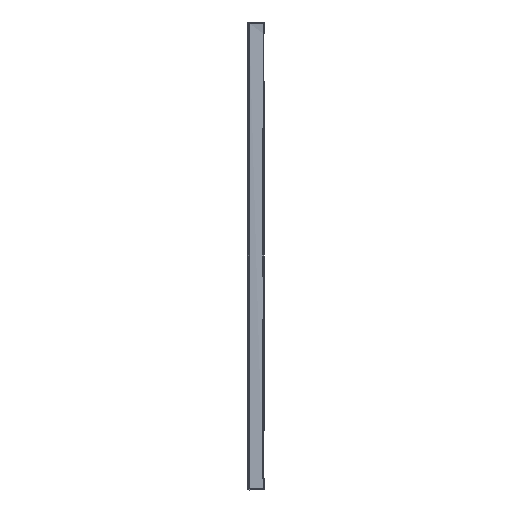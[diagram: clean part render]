
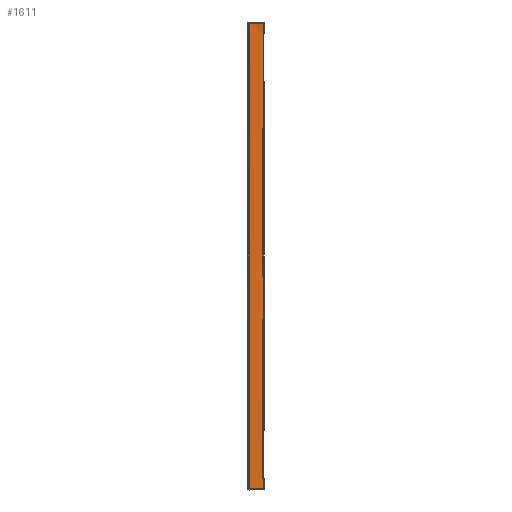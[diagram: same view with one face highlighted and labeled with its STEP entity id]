
A CAD part, left-side view. The second image highlights one B-rep face of the part: STEP entity #1611.
In plain terms, the highlighted planar face has unit normal (-1, 0, 0).
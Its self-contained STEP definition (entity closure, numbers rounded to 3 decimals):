
#299 = CARTESIAN_POINT ( 'NONE',  ( -399.5, -19.8, -288.867 ) ) ;
#389 = B_SPLINE_CURVE_WITH_KNOTS ( 'NONE', 3,
 ( #3256, #1489, #9709, #4852 ),
 .UNSPECIFIED., .F., .F.,
 ( 4, 4 ),
 ( 0., 1. ),
 .UNSPECIFIED. ) ;
#455 = ORIENTED_EDGE ( 'NONE', *, *, #4024, .T. ) ;
#754 = CARTESIAN_POINT ( 'NONE',  ( -399.5, -19.8, -297.8 ) ) ;
#947 = EDGE_CURVE ( 'NONE', #7885, #4846, #6087, .T. ) ;
#1029 = B_SPLINE_CURVE_WITH_KNOTS ( 'NONE', 3,
 ( #2221, #1649, #7524, #7483 ),
 .UNSPECIFIED., .F., .F.,
 ( 4, 4 ),
 ( 0., 1. ),
 .UNSPECIFIED. ) ;
#1489 = CARTESIAN_POINT ( 'NONE',  ( -399.5, -8., -297.8 ) ) ;
#1611 = ADVANCED_FACE ( 'NONE', ( #8850 ), #10352, .T. ) ;
#1649 = CARTESIAN_POINT ( 'NONE',  ( -399.5, -19.4, -94.8 ) ) ;
#1806 = ORIENTED_EDGE ( 'NONE', *, *, #9982, .T. ) ;
#1990 = ORIENTED_EDGE ( 'NONE', *, *, #8218, .T. ) ;
#1997 = CARTESIAN_POINT ( 'NONE',  ( -399.5, -19.8, -284.4 ) ) ;
#2091 = CARTESIAN_POINT ( 'NONE',  ( -399.5, -8., 297.8 ) ) ;
#2150 = CARTESIAN_POINT ( 'NONE',  ( -399.5, -19.8, 297.8 ) ) ;
#2221 = CARTESIAN_POINT ( 'NONE',  ( -399.5, -19.4, -284.4 ) ) ;
#2278 = CARTESIAN_POINT ( 'NONE',  ( -399.5, -2.1, 297.8 ) ) ;
#2679 = B_SPLINE_CURVE_WITH_KNOTS ( 'NONE', 3,
 ( #3444, #8221, #2091, #8358 ),
 .UNSPECIFIED., .F., .F.,
 ( 4, 4 ),
 ( 0., 1. ),
 .UNSPECIFIED. ) ;
#3256 = CARTESIAN_POINT ( 'NONE',  ( -399.5, -2.1, -297.8 ) ) ;
#3378 = CARTESIAN_POINT ( 'NONE',  ( -399.5, -19.8, 293.333 ) ) ;
#3444 = CARTESIAN_POINT ( 'NONE',  ( -399.5, -19.8, 297.8 ) ) ;
#3532 = CARTESIAN_POINT ( 'NONE',  ( -399.5, -2.1, 297.8 ) ) ;
#3990 = CARTESIAN_POINT ( 'NONE',  ( -399.5, -19.8, -293.333 ) ) ;
#4010 = CARTESIAN_POINT ( 'NONE',  ( -399.5, -19.667, -284.4 ) ) ;
#4024 = EDGE_CURVE ( 'NONE', #6034, #6726, #5207, .T. ) ;
#4025 = CARTESIAN_POINT ( 'NONE',  ( -399.5, -19.8, 288.867 ) ) ;
#4253 = CARTESIAN_POINT ( 'NONE',  ( -399.5, -19.533, -284.4 ) ) ;
#4306 = VERTEX_POINT ( 'NONE', #5542 ) ;
#4564 = ORIENTED_EDGE ( 'NONE', *, *, #9592, .T. ) ;
#4776 = CARTESIAN_POINT ( 'NONE',  ( -399.5, -2.1, 99.267 ) ) ;
#4814 = CARTESIAN_POINT ( 'NONE',  ( -399.5, -19.4, -284.4 ) ) ;
#4846 = VERTEX_POINT ( 'NONE', #3532 ) ;
#4852 = CARTESIAN_POINT ( 'NONE',  ( -399.5, -19.8, -297.8 ) ) ;
#5207 = B_SPLINE_CURVE_WITH_KNOTS ( 'NONE', 3,
 ( #9587, #4025, #3378, #9023 ),
 .UNSPECIFIED., .F., .F.,
 ( 4, 4 ),
 ( 0., 1. ),
 .UNSPECIFIED. ) ;
#5462 = DIRECTION ( 'NONE',  ( -1., 0., 0. ) ) ;
#5542 = CARTESIAN_POINT ( 'NONE',  ( -399.5, -19.8, -297.8 ) ) ;
#5895 = ORIENTED_EDGE ( 'NONE', *, *, #947, .F. ) ;
#6034 = VERTEX_POINT ( 'NONE', #7299 ) ;
#6073 = CARTESIAN_POINT ( 'NONE',  ( -399.5, -2.1, -297.8 ) ) ;
#6087 = B_SPLINE_CURVE_WITH_KNOTS ( 'NONE', 3,
 ( #7959, #10422, #4776, #2278 ),
 .UNSPECIFIED., .F., .F.,
 ( 4, 4 ),
 ( 0., 1. ),
 .UNSPECIFIED. ) ;
#6214 = ORIENTED_EDGE ( 'NONE', *, *, #7139, .T. ) ;
#6303 = CARTESIAN_POINT ( 'NONE',  ( -399.5, -19.4, -284.4 ) ) ;
#6726 = VERTEX_POINT ( 'NONE', #2150 ) ;
#6882 = B_SPLINE_CURVE_WITH_KNOTS ( 'NONE', 3,
 ( #8048, #3990, #299, #1997 ),
 .UNSPECIFIED., .F., .F.,
 ( 4, 4 ),
 ( 0., 1. ),
 .UNSPECIFIED. ) ;
#7139 = EDGE_CURVE ( 'NONE', #6726, #4846, #2679, .T. ) ;
#7206 = DIRECTION ( 'NONE',  ( 0., 1., 0. ) ) ;
#7299 = CARTESIAN_POINT ( 'NONE',  ( -398.287, -20.26, 284.4 ) ) ;
#7483 = CARTESIAN_POINT ( 'NONE',  ( -399.5, -19.4, 284.4 ) ) ;
#7524 = CARTESIAN_POINT ( 'NONE',  ( -399.5, -19.4, 94.8 ) ) ;
#7595 = VERTEX_POINT ( 'NONE', #6303 ) ;
#7734 = VERTEX_POINT ( 'NONE', #8100 ) ;
#7772 = EDGE_CURVE ( 'NONE', #7885, #4306, #389, .T. ) ;
#7804 = B_SPLINE_CURVE_WITH_KNOTS ( 'NONE', 3,
 ( #8860, #4010, #4253, #4814 ),
 .UNSPECIFIED., .F., .F.,
 ( 4, 4 ),
 ( 0., 1. ),
 .UNSPECIFIED. ) ;
#7885 = VERTEX_POINT ( 'NONE', #6073 ) ;
#7959 = CARTESIAN_POINT ( 'NONE',  ( -399.5, -2.1, -297.8 ) ) ;
#8048 = CARTESIAN_POINT ( 'NONE',  ( -399.5, -19.8, -297.8 ) ) ;
#8100 = CARTESIAN_POINT ( 'NONE',  ( -398.215, -20.37, -284.4 ) ) ;
#8218 = EDGE_CURVE ( 'NONE', #4306, #7734, #6882, .T. ) ;
#8221 = CARTESIAN_POINT ( 'NONE',  ( -399.5, -13.9, 297.8 ) ) ;
#8358 = CARTESIAN_POINT ( 'NONE',  ( -399.5, -2.1, 297.8 ) ) ;
#8850 = FACE_OUTER_BOUND ( 'NONE', #9769, .T. ) ;
#8860 = CARTESIAN_POINT ( 'NONE',  ( -399.5, -19.8, -284.4 ) ) ;
#9023 = CARTESIAN_POINT ( 'NONE',  ( -399.5, -19.8, 297.8 ) ) ;
#9587 = CARTESIAN_POINT ( 'NONE',  ( -399.5, -19.8, 284.4 ) ) ;
#9592 = EDGE_CURVE ( 'NONE', #7595, #6034, #1029, .T. ) ;
#9709 = CARTESIAN_POINT ( 'NONE',  ( -399.5, -13.9, -297.8 ) ) ;
#9769 = EDGE_LOOP ( 'NONE', ( #10299, #1990, #1806, #4564, #455, #6214, #5895 ) ) ;
#9982 = EDGE_CURVE ( 'NONE', #7734, #7595, #7804, .T. ) ;
#10299 = ORIENTED_EDGE ( 'NONE', *, *, #7772, .T. ) ;
#10340 = AXIS2_PLACEMENT_3D ( 'NONE', #754, #5462, #7206 ) ;
#10352 = PLANE ( 'NONE',  #10340 ) ;
#10422 = CARTESIAN_POINT ( 'NONE',  ( -399.5, -2.1, -99.267 ) ) ;
